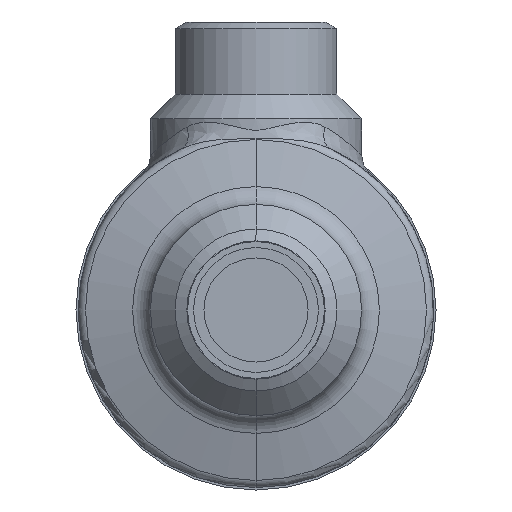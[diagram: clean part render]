
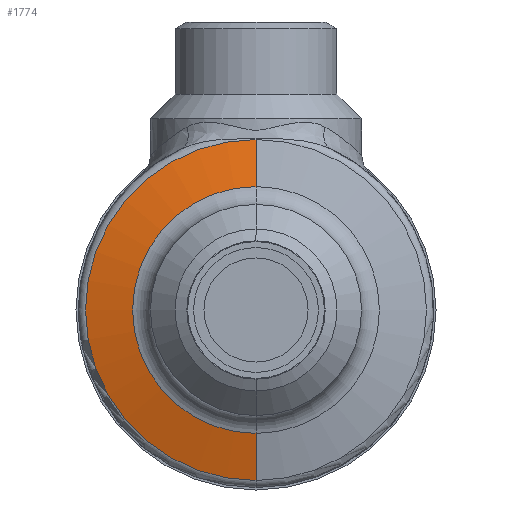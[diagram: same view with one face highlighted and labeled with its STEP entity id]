
A CAD part, front view. The second image highlights one B-rep face of the part: STEP entity #1774.
In plain terms, the highlighted conical face has half-angle 75 degrees and reference radius 37 mm.
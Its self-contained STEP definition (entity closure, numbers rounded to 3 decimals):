
#193 = VERTEX_POINT ( 'NONE', #12950 ) ;
#1244 = FACE_OUTER_BOUND ( 'NONE', #15179, .T. ) ;
#1245 = CONICAL_SURFACE ( 'NONE', #1246, 37., 1.309 ) ;
#1246 = AXIS2_PLACEMENT_3D ( 'NONE', #1247, #1248, #1249 ) ;
#1247 = CARTESIAN_POINT ( 'NONE',  ( 0., -63.981, 0. ) ) ;
#1248 = DIRECTION ( 'NONE',  ( 0., 1., 0. ) ) ;
#1249 = DIRECTION ( 'NONE',  ( 0., 0., 1. ) ) ;
#1774 = ADVANCED_FACE ( 'NONE', ( #1244 ), #1245, .T. ) ;
#1959 = CARTESIAN_POINT ( 'NONE',  ( 0., -64.378, 35.518 ) ) ;
#2631 = ORIENTED_EDGE ( 'NONE', *, *, #9133, .T. ) ;
#3130 = ORIENTED_EDGE ( 'NONE', *, *, #12580, .F. ) ;
#3698 = VERTEX_POINT ( 'NONE', #10926 ) ;
#4101 = EDGE_CURVE ( 'NONE', #193, #11562, #11207, .T. ) ;
#4503 = EDGE_CURVE ( 'NONE', #11562, #12560, #11590, .T. ) ;
#5613 = ORIENTED_EDGE ( 'NONE', *, *, #4503, .T. ) ;
#6104 = ORIENTED_EDGE ( 'NONE', *, *, #4101, .T. ) ;
#9133 = EDGE_CURVE ( 'NONE', #3698, #193, #12891, .T. ) ;
#10926 = CARTESIAN_POINT ( 'NONE',  ( 0., -67.007, -25.706 ) ) ;
#10938 = CARTESIAN_POINT ( 'NONE',  ( 0., -64.378, -35.518 ) ) ;
#11087 = LINE ( 'NONE', #11088, #11089 ) ;
#11088 = CARTESIAN_POINT ( 'NONE',  ( 0., -63.981, -37. ) ) ;
#11089 = VECTOR ( 'NONE', #11090, 1000. ) ;
#11090 = DIRECTION ( 'NONE',  ( 0., 0.259, -0.966 ) ) ;
#11207 = LINE ( 'NONE', #11208, #11209 ) ;
#11208 = CARTESIAN_POINT ( 'NONE',  ( 0., -63.981, 37. ) ) ;
#11209 = VECTOR ( 'NONE', #11210, 1000. ) ;
#11210 = DIRECTION ( 'NONE',  ( 0., 0.259, 0.966 ) ) ;
#11562 = VERTEX_POINT ( 'NONE', #1959 ) ;
#11590 = CIRCLE ( 'NONE', #11591, 35.518 ) ;
#11591 = AXIS2_PLACEMENT_3D ( 'NONE', #11592, #11593, #11594 ) ;
#11592 = CARTESIAN_POINT ( 'NONE',  ( 0., -64.378, 0. ) ) ;
#11593 = DIRECTION ( 'NONE',  ( 0., -1., 0. ) ) ;
#11594 = DIRECTION ( 'NONE',  ( 0., 0., -1. ) ) ;
#12560 = VERTEX_POINT ( 'NONE', #10938 ) ;
#12580 = EDGE_CURVE ( 'NONE', #3698, #12560, #11087, .T. ) ;
#12891 = CIRCLE ( 'NONE', #12892, 25.706 ) ;
#12892 = AXIS2_PLACEMENT_3D ( 'NONE', #12893, #12894, #12895 ) ;
#12893 = CARTESIAN_POINT ( 'NONE',  ( 0., -67.007, 0. ) ) ;
#12894 = DIRECTION ( 'NONE',  ( 0., 1., 0. ) ) ;
#12895 = DIRECTION ( 'NONE',  ( 0., 0., -1. ) ) ;
#12950 = CARTESIAN_POINT ( 'NONE',  ( 0., -67.007, 25.706 ) ) ;
#15179 = EDGE_LOOP ( 'NONE', ( #3130, #2631, #6104, #5613 ) ) ;
